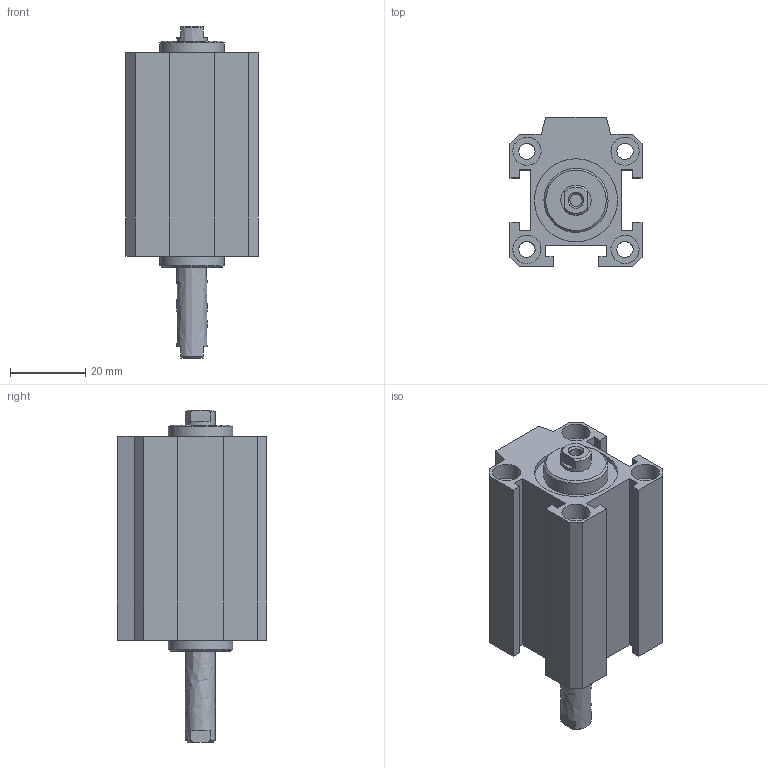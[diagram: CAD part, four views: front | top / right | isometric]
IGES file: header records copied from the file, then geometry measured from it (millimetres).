
Global section: file name: 1514_20_0020; native system: Autodesk Inventor 2014; preprocessor: unknown; author: A. Manieri; date: 20160824.110429; units: millimetre
Bounding box: 35 x 39.5 x 88 mm (x, y, z)
Volume: 47886.4 mm3; surface area: 23956.5 mm2
Topology: 2 solids, 2 shells, 104 faces, 272 edges, 192 vertices
Faces by surface type: bspline 104
